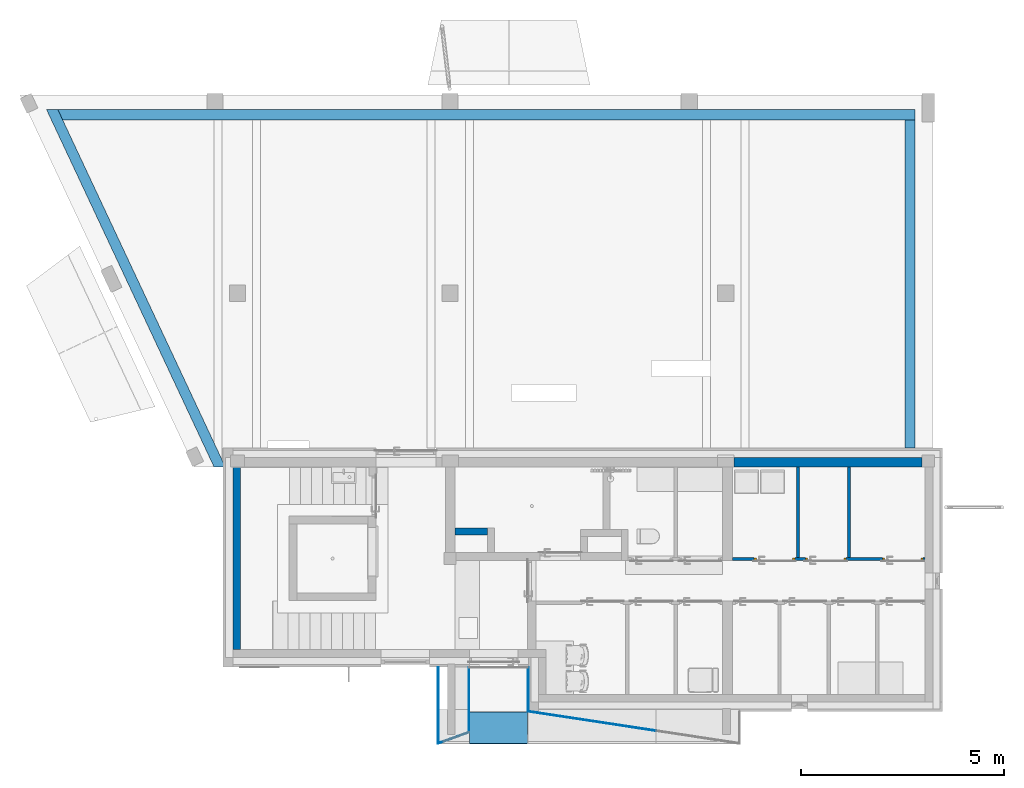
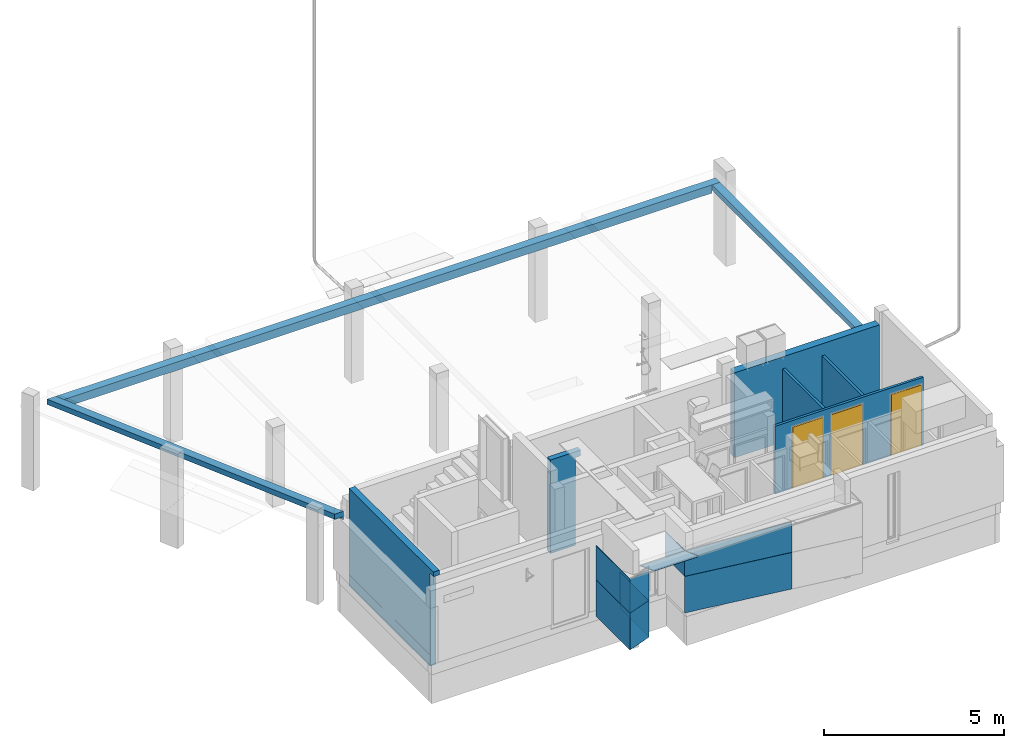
# One storey, part 4 of 55: 16 building element parts, 9 walls, 3 doors, 4 openings, 6 elements without a shape of their own.
"""IFC2X3 building model written with IfcOpenShell, lengths in millimetres."""

import ifcopenshell
import ifcopenshell.guid

model = None  # the IFC model being written
_history = None  # IfcOwnerHistory: only IFC2X3 demands one
_inside = {}  # id of a spatial element -> (the spatial element, [elements in it])
_under = {}  # id of a project, library or spatial element -> (it, [spatial elements below it])
_declared = {}  # id of a project -> (the project, [libraries it declares])
_typed = {}  # id of a type object -> (the type object, [elements of that type])
_made_of = {}  # id of a material, layer set ... -> (it, [elements and type objects made of it])


def new_model(schema):
    """Start an empty IFC model of exactly this schema.

    Asked for "IFC4X3", IfcOpenShell would pick the latest addendum, in which some entities
    have other attributes; the version numbers below select the first issue.
    IFC2X3 requires an IfcOwnerHistory on every rooted entity: one is made here for all.
    """
    global model, _history
    if schema == "IFC4X3":
        model = ifcopenshell.file(schema_version=(4, 3, 0, 0))
    else:
        model = ifcopenshell.file(schema=schema)
    _inside.clear()
    _under.clear()
    _declared.clear()
    _typed.clear()
    _made_of.clear()
    _history = None
    if model.schema == "IFC2X3":
        org = make("IfcOrganization", Name="unknown")
        user = make(
            "IfcPersonAndOrganization",
            ThePerson=make("IfcPerson", FamilyName="unknown"),
            TheOrganization=org,
        )
        app = make(
            "IfcApplication",
            ApplicationDeveloper=org,
            Version="unknown",
            ApplicationFullName="unknown",
            ApplicationIdentifier="unknown",
        )
        _history = make(
            "IfcOwnerHistory",
            OwningUser=user,
            OwningApplication=app,
            ChangeAction="ADDED",
            CreationDate=0,
        )
    return model


def make(cls, **values):
    """One entity of the class cls with the attributes given. An attribute that is None is left unset."""
    return model.create_entity(
        cls, **{name: value for name, value in values.items() if value is not None}
    )


def entity(cls, *values):
    """Any entity or typed value of the class cls, its attributes in the order of the schema. None: left unset."""
    e = model.create_entity(cls)
    for i, value in enumerate(values):
        if value is not None:
            e[i] = value
    return e


def rooted(cls, **values):
    """An entity with a GlobalId (a new one), such as an element, a storey or a relation."""
    return make(cls, GlobalId=ifcopenshell.guid.new(), OwnerHistory=_history, **values)


def si_unit(unit_type, name, prefix=None):
    """IfcSIUnit, for example si_unit("LENGTHUNIT", "METRE", prefix="MILLI")."""
    return make("IfcSIUnit", UnitType=unit_type, Prefix=prefix, Name=name)


def converted_unit(unit_type, name, factor, base, dimensions=None, offset=None):
    """IfcConversionBasedUnit, such as the inch: factor (a typed value) times the base unit."""
    return make(
        "IfcConversionBasedUnit"
        if offset is None
        else "IfcConversionBasedUnitWithOffset",
        ConversionOffset=offset,
        Dimensions=None
        if dimensions is None
        else entity("IfcDimensionalExponents", *dimensions),
        UnitType=unit_type,
        Name=name,
        ConversionFactor=make(
            "IfcMeasureWithUnit", ValueComponent=factor, UnitComponent=base
        ),
    )


def assignment(units):
    """IfcUnitAssignment: the units of a project."""
    return None if units is None else make("IfcUnitAssignment", Units=units)


def point(xyz):
    """IfcCartesianPoint."""
    return None if xyz is None else make("IfcCartesianPoint", Coordinates=xyz)


def direction(xyz):
    """IfcDirection."""
    return None if xyz is None else make("IfcDirection", DirectionRatios=xyz)


def frame(location, z_axis=None, x_axis=None):
    """IfcAxis2Placement3D, a coordinate frame: its origin and axes. An axis left out is left unset."""
    return make(
        "IfcAxis2Placement3D",
        Location=point(location),
        Axis=direction(z_axis),
        RefDirection=direction(x_axis),
    )


def frame_2d(location, x_axis=None):
    """IfcAxis2Placement2D, a coordinate frame in the plane: its origin and x axis."""
    return make(
        "IfcAxis2Placement2D", Location=point(location), RefDirection=direction(x_axis)
    )


def origin():
    """The frame at (0, 0, 0) with its axes left unset."""
    return frame((0.0, 0.0, 0.0))


def place(relative_to, where):
    """IfcLocalPlacement: puts the frame where relative to a parent placement (None: the world)."""
    return make(
        "IfcLocalPlacement", PlacementRelTo=relative_to, RelativePlacement=where
    )


def context(
    kind, dimensions, precision=None, world=None, true_north=None, identifier=None
):
    """IfcGeometricRepresentationContext, for example the 3D "Model" context."""
    return make(
        "IfcGeometricRepresentationContext",
        ContextIdentifier=identifier,
        ContextType=kind,
        CoordinateSpaceDimension=dimensions,
        Precision=precision,
        WorldCoordinateSystem=world,
        TrueNorth=true_north,
    )


def subcontext(parent, identifier, kind, view, scale=None):
    """IfcGeometricRepresentationSubContext, for example "Body" below "Model"."""
    return make(
        "IfcGeometricRepresentationSubContext",
        ContextIdentifier=identifier,
        ContextType=kind,
        ParentContext=parent,
        TargetScale=scale,
        TargetView=view,
    )


def project(units=None, contexts=None):
    """IfcProject with its units and contexts."""
    return rooted(
        "IfcProject",
        Name="project",
        RepresentationContexts=contexts,
        UnitsInContext=assignment(units),
    )


def spatial(cls, under=None, at=None, **own):
    """A site, building, storey or space (cls), placed at a placement, below another one or the project."""
    s = rooted(cls, ObjectPlacement=at, **own)
    if under is not None:
        _under.setdefault(under.id(), (under, []))[1].append(s)
    return s


def polyline(points):
    """IfcPolyline through the points."""
    return make("IfcPolyline", Points=[point(p) for p in points])


def profile(cls, at=None, kind="AREA", **sizes):
    """A parametric profile (cls). Its sizes go by their IFC names, for example OverallWidth=200.0."""
    return make(cls, ProfileType=kind, Position=at, **sizes)


def rectangle(**sizes):
    """IfcRectangleProfileDef."""
    return profile("IfcRectangleProfileDef", **sizes)


def outline(outer, holes=None, kind="AREA"):
    """IfcArbitraryClosedProfileDef: a profile drawn as a closed curve; with holes, ...WithVoids."""
    if holes is None:
        return make("IfcArbitraryClosedProfileDef", ProfileType=kind, OuterCurve=outer)
    return make(
        "IfcArbitraryProfileDefWithVoids",
        ProfileType=kind,
        OuterCurve=outer,
        InnerCurves=holes,
    )


def extrude(swept, where, along, depth):
    """IfcExtrudedAreaSolid: the profile swept, set in the frame where, extruded along a direction by depth."""
    return make(
        "IfcExtrudedAreaSolid",
        SweptArea=swept,
        Position=where,
        ExtrudedDirection=direction(along),
        Depth=depth,
    )


def clip(a, b, op="DIFFERENCE"):
    """IfcBooleanClippingResult: the solid a cut by the half space b."""
    return make(
        "IfcBooleanClippingResult", Operator=op, FirstOperand=a, SecondOperand=b
    )


def halfspace(plane, agree):
    """IfcHalfSpaceSolid: all space on one side of the plane z = 0 of the frame plane."""
    return make(
        "IfcHalfSpaceSolid",
        BaseSurface=make("IfcPlane", Position=plane),
        AgreementFlag=agree,
    )


def faces_of(points, faces, orient=None, outer=None):
    """IfcFace entities. A face is a list of loops; a loop is a list of indices into points, from 0.

    orient and outer hold one flag for each loop. By default every Orientation is true, the
    first loop of a face is its IfcFaceOuterBound and the others are IfcFaceBound.
    """
    made = []
    for i, loops in enumerate(faces):
        bounds = []
        for j, loop in enumerate(loops):
            is_outer = j == 0 if outer is None else outer[i][j]
            bounds.append(
                make(
                    "IfcFaceOuterBound" if is_outer else "IfcFaceBound",
                    Bound=make("IfcPolyLoop", Polygon=[points[k] for k in loop]),
                    Orientation=True if orient is None else orient[i][j],
                )
            )
        made.append(make("IfcFace", Bounds=bounds))
    return made


def faceted_brep(points, faces, orient=None, outer=None, voids=None):
    """IfcFacetedBrep: a solid bounded by flat faces; with voids (closed shells), ...WithVoids."""
    shared = [point(p) for p in points]
    hull = make("IfcClosedShell", CfsFaces=faces_of(shared, faces, orient, outer))
    if voids is None:
        return make("IfcFacetedBrep", Outer=hull)
    return make(
        "IfcFacetedBrepWithVoids",
        Outer=hull,
        Voids=[
            make(cls, CfsFaces=faces_of(shared, fs, o, b)) for cls, fs, o, b in voids
        ],
    )


def shape(context_of_items, identifier, shape_type, items):
    """IfcShapeRepresentation: the items that make up one representation, for example the "Body"."""
    return make(
        "IfcShapeRepresentation",
        ContextOfItems=context_of_items,
        RepresentationIdentifier=identifier,
        RepresentationType=shape_type,
        Items=items,
    )


def source(mapping_origin, context_of_items, identifier, shape_type, items):
    """IfcRepresentationMap: a shape defined once, which mapped items show again and again."""
    return make(
        "IfcRepresentationMap",
        MappingOrigin=mapping_origin,
        MappedRepresentation=shape(context_of_items, identifier, shape_type, items),
    )


def transform(
    local_origin,
    x_axis=None,
    y_axis=None,
    z_axis=None,
    scale=None,
    scale2=None,
    scale3=None,
    uniform=True,
):
    """IfcCartesianTransformationOperator3D, or its non-uniform kind. x_axis, y_axis, z_axis: its Axis1, 2, 3."""
    if uniform:
        return make(
            "IfcCartesianTransformationOperator3D",
            Axis1=direction(x_axis),
            Axis2=direction(y_axis),
            LocalOrigin=point(local_origin),
            Scale=scale,
            Axis3=direction(z_axis),
        )
    return make(
        "IfcCartesianTransformationOperator3DnonUniform",
        Axis1=direction(x_axis),
        Axis2=direction(y_axis),
        LocalOrigin=point(local_origin),
        Scale=scale,
        Axis3=direction(z_axis),
        Scale2=scale2,
        Scale3=scale3,
    )


def mapped(mapping_source, mapping_target):
    """IfcMappedItem: shows the shape of a source again, moved by a transform."""
    return make(
        "IfcMappedItem", MappingSource=mapping_source, MappingTarget=mapping_target
    )


def material(Name=None, Category=None):
    """IfcMaterial."""
    return make("IfcMaterial", Name=Name, Category=Category)


def layer(
    of_material, thickness, ventilated=None, Name=None, Category=None, Priority=None
):
    """IfcMaterialLayer: one layer of a wall or slab, of a material (None: an air gap)."""
    return make(
        "IfcMaterialLayer",
        Material=of_material,
        LayerThickness=thickness,
        IsVentilated=ventilated,
        Name=Name,
        Category=Category,
        Priority=Priority,
    )


def layer_set(layers, Name=None):
    """IfcMaterialLayerSet."""
    return make("IfcMaterialLayerSet", MaterialLayers=layers, LayerSetName=Name)


def layer_usage(for_layer_set, set_direction, sense, offset, extent=None):
    """IfcMaterialLayerSetUsage: how a layer set lies in its element."""
    return make(
        "IfcMaterialLayerSetUsage",
        ForLayerSet=for_layer_set,
        LayerSetDirection=set_direction,
        DirectionSense=sense,
        OffsetFromReferenceLine=offset,
        ReferenceExtent=extent,
    )


def made_of(thing, what):
    """Note that an element or type object is made of a material, layer set ...; save() writes the relation."""
    if what is not None:
        _made_of.setdefault(what.id(), (what, []))[1].append(thing)
    return thing


def type_object(cls, material=None, **own):
    """A type object (cls), such as IfcWallType, which elements share."""
    return made_of(rooted(cls, **own), material)


def type_shapes(of_type, sources):
    """Give a type object the sources (RepresentationMaps) that its elements show as mapped items."""
    of_type.RepresentationMaps = sources


def element(
    cls,
    number,
    at=None,
    inside=None,
    cuts=None,
    type_object=None,
    material=None,
    context=None,
    identifier="Body",
    shape_type=None,
    held_by="IfcProductDefinitionShape",
    body=None,
    shapes=None,
    **own,
):
    """One element of the class cls, such as IfcWall. Its Tag is "e" and its number.

    at: its placement. inside: the storey or other place that contains it. cuts: it is an
    opening in that element (IfcRelVoidsElement). A single representation is given by context,
    identifier, shape_type and body (its items); several are given by shapes. held_by: the class
    of the entity that holds the representations. save() writes the other relations.
    """
    e = rooted(cls, Tag="e%d" % number, ObjectPlacement=at, **own)
    if body is not None:
        shapes = [shape(context, identifier, shape_type, body)]
    if shapes is not None:
        e.Representation = make(held_by, Representations=shapes)
    if inside is not None:
        _inside.setdefault(inside.id(), (inside, []))[1].append(e)
    if cuts is not None:
        rooted(
            "IfcRelVoidsElement", RelatingBuildingElement=cuts, RelatedOpeningElement=e
        )
    if type_object is not None:
        _typed.setdefault(type_object.id(), (type_object, []))[1].append(e)
    return made_of(e, material)


def fill(opening, filler):
    """IfcRelFillsElement: the door or window that sits in an opening."""
    return rooted(
        "IfcRelFillsElement",
        RelatingOpeningElement=opening,
        RelatedBuildingElement=filler,
    )


def aggregate(whole, parts):
    """IfcRelAggregates: a whole, such as a stair, and the parts it consists of."""
    return rooted("IfcRelAggregates", RelatingObject=whole, RelatedObjects=parts)


def save(model, path):
    """Write the relations noted so far, then the file.

    IfcRelAggregates (storeys below a building ...), IfcRelContainedInSpatialStructure (elements
    in a storey), IfcRelDefinesByType, IfcRelAssociatesMaterial and IfcRelDeclares: one each for
    every whole, place, type object, material and project.
    """
    for whole, parts in _under.values():
        aggregate(whole, parts)
    for where, things in _inside.values():
        rooted(
            "IfcRelContainedInSpatialStructure",
            RelatedElements=things,
            RelatingStructure=where,
        )
    for kind, things in _typed.values():
        rooted("IfcRelDefinesByType", RelatedObjects=things, RelatingType=kind)
    for what, things in _made_of.values():
        rooted("IfcRelAssociatesMaterial", RelatedObjects=things, RelatingMaterial=what)
    for by, libraries in _declared.values():
        rooted("IfcRelDeclares", RelatingContext=by, RelatedDefinitions=libraries)
    model.write(path)


model = new_model("IFC2X3")

# Units and contexts
model_context = context("Model", 3, precision=0.01, world=origin(), true_north=direction((6.123233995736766e-17, 1.0)))
plan_context = context("Plan", 3, precision=0.01, world=origin(), true_north=direction((6.123233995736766e-17, 1.0)))
body_context = subcontext(model_context, "Body", "Model", "MODEL_VIEW")
ifc_project = project(units=[si_unit("LENGTHUNIT", "METRE", prefix="MILLI"), converted_unit("PLANEANGLEUNIT", "DEGREE", entity("IfcPlaneAngleMeasure", 0.017453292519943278), si_unit("PLANEANGLEUNIT", "RADIAN"), dimensions=[0, 0, 0, 0, 0, 0, 0]), si_unit("AREAUNIT", "SQUARE_METRE")], contexts=[model_context, plan_context])

# Site, building, storey
site_placement = place(None, origin())
site = spatial("IfcSite", under=ifc_project, at=site_placement, Name="Default", CompositionType="ELEMENT")
building_placement = place(site_placement, origin())
building = spatial("IfcBuilding", under=site, at=building_placement, CompositionType="ELEMENT")
storey_placement = place(building_placement, origin())
storey = spatial("IfcBuildingStorey", under=building, at=storey_placement, Name="1K", CompositionType="ELEMENT", Elevation=0.0)

# Wall, opening
ifc_material_1 = material(Name="_K. Müüritis. Väikeplokk. Betoon-õõnesplokk")
ifc_layer_1 = layer(ifc_material_1, 240.0)
ifc_layer_set_1 = layer_set([ifc_layer_1], Name="Basic Wall:Columbia 240mm")
ifc_layer_usage_1 = layer_usage(ifc_layer_set_1, "AXIS2", "NEGATIVE", 120.0)
wall_type_1 = type_object("IfcWallType", Name="Basic Wall:Columbia 240mm", PredefinedType="STANDARD", material=ifc_layer_set_1)
wall_1_placement = place(storey_placement, frame((12175.003532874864, 6525.000000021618, -180.0)))
wall_1 = element("IfcWallStandardCase", 1, at=wall_1_placement, inside=storey, type_object=wall_type_1, material=ifc_layer_usage_1, Name="Basic Wall:Columbia 240mm", ObjectType="Basic Wall:Columbia 240mm", context=body_context, shape_type="SweptSolid", body=[
    extrude(rectangle(XDim=4649.996467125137, YDim=239.99999999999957, at=frame_2d((2324.9982335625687, 0.0), x_axis=(-1.0, 0.0))), origin(), (0.0, 0.0, 1.0), 2885.0000000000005),
])
opening_1_placement = place(wall_1_placement, frame((-12175.003532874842, -6525.000000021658, 180.0)))
element("IfcOpeningElement", 2, at=opening_1_placement, cuts=wall_1, Name="Basic Wall:Columbia 240mm", ObjectType="Opening", context=body_context, shape_type="Brep", body=[
    faceted_brep([(4820.0, 5719.000000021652, 2100.0), (3350.0, 5719.000000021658, 2100.0), (3350.0, 5719.000000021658, 0.0), (4820.0, 5719.000000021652, 0.0), (4820.0, 6719.0000000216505, 0.0), (4820.0, 6719.0000000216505, -20.0), (4820.0, 6811.0000000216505, -20.0), (4820.0, 6811.0000000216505, 0.0), (4820.0, 7811.0000000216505, 0.0), (4820.0, 7811.0000000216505, 2100.0), (3350.0, 6719.000000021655, 0.0), (3350.0, 7811.000000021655, 2100.0), (3350.0, 7811.000000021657, 0.0), (3350.0, 6811.000000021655, 0.0), (3350.0, 6811.000000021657, -20.0), (3350.0, 6719.000000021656, -20.0)], [[[0, 1, 2, 3]], [[3, 4, 5, 6, 7, 8, 9, 0]], [[2, 10, 4, 3]], [[1, 11, 12, 13, 14, 15, 10, 2]], [[9, 11, 1, 0]], [[11, 9, 8, 12]], [[8, 7, 13, 12]], [[14, 13, 7, 6]], [[5, 4, 10, 15]], [[6, 5, 15, 14]]]),
])

# Walls
ifc_material_2 = material(Name="_K. Väisviimistlus. Krohv. Valge")
ifc_layer_2 = layer(ifc_material_2, 5.0)
ifc_layer_3 = layer(ifc_material_1, 190.00000000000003)
ifc_layer_4 = layer(ifc_material_2, 5.0)
ifc_layer_set_2 = layer_set([ifc_layer_2, ifc_layer_3, ifc_layer_4], Name="Basic Wall:SS-01. 190")
wall_type_2 = type_object("IfcWallType", Name="Basic Wall:SS-01. 190", PredefinedType="STANDARD", material=ifc_layer_set_2)
wall_2_placement = place(storey_placement, frame((-100.0, 1710.0, -180.0), z_axis=(0.0, 0.0, 1.0), x_axis=(0.0, 1.0, 0.0)))
element("IfcWall", 3, at=wall_2_placement, inside=storey, type_object=wall_type_2, Name="Basic Wall:SS-01. 190", ObjectType="Basic Wall:SS-01. 190", context=body_context, shape_type="Brep", body=[
    faceted_brep([(190.0, -100.0, 0.0), (4689.99995949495, -100.0, 0.0), (4689.99995949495, -100.0, 3305.0), (3790.0, -100.0, 3305.0), (3390.0, -100.0, 3305.0), (2190.0, -100.0, 3305.0), (1790.0, -100.0, 3305.0), (590.0, -100.0, 3305.0), (190.0, -100.0, 3305.0), (0.0, -100.0, 3305.0), (0.0, -100.0, 3150.0002019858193), (190.0, -100.0, 3150.0002019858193), (4689.999959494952, 100.0, 0.0), (190.0, 100.0, 0.0), (190.0, 100.0, 380.0), (4689.999959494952, 100.0, 380.0), (4689.99995949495, 100.0, 3305.0), (0.0, 100.0, 3305.0), (0.0, 90.0, 3305.0), (190.0, 90.0, 2295.0), (4689.999959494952, 90.0, 2295.0), (4689.999959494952, 90.0, 380.0), (190.0, 90.0, 380.0), (190.0, 100.0, 2295.0), (4689.999959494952, 100.0, 2295.0), (0.0, 100.0, 3150.0002019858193), (190.0, 100.0, 3150.0002019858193)], [[[0, 1, 2, 3, 4, 5, 6, 7, 8, 9, 10, 11]], [[12, 13, 14, 15]], [[1, 0, 13, 12]], [[9, 8, 7, 6, 5, 4, 3, 2, 16, 17, 18]], [[19, 20, 21, 22]], [[22, 21, 15, 14]], [[20, 19, 23, 24]], [[25, 26, 11, 10]], [[13, 0, 11, 26, 23, 19, 22, 14]], [[9, 18, 17, 25, 10]], [[2, 1, 12, 15, 21, 20, 24, 16]], [[17, 16, 24, 23, 26, 25]]]),
])
ifc_layer_5 = layer(ifc_material_2, 10.0)
ifc_material_3 = material(Name="_K. Müüritis. Väikeplokk. Kergkruusplokk")
ifc_layer_6 = layer(ifc_material_3, 150.0)
ifc_layer_7 = layer(ifc_material_2, 10.0)
ifc_layer_set_3 = layer_set([ifc_layer_5, ifc_layer_6, ifc_layer_7], Name="Basic Wall:SS-03. Šahti sein")
wall_type_3 = type_object("IfcWallType", Name="Basic Wall:SS-03. Šahti sein", PredefinedType="STANDARD", material=ifc_layer_set_3)
wall_3_placement = place(storey_placement, frame((5294.9950608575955, 4815.0, 0.0)))
element("IfcWall", 4, at=wall_3_placement, inside=storey, type_object=wall_type_3, Name="Basic Wall:SS-03. Šahti sein", ObjectType="Basic Wall:SS-03. Šahti sein", context=body_context, shape_type="Brep", body=[
    faceted_brep([(0.0, -85.0, 0.0), (805.0021362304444, -85.0, 0.0), (805.0021362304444, -85.0, 2969.9998016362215), (975.0021362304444, -85.0, 2969.9998016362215), (975.0021362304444, -85.0, 3104.9998016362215), (975.0021362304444, -85.0, 3170.0), (805.0021362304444, -85.0, 3170.0), (5.0, -85.0, 3170.0), (5.0, -85.0, 2705.0), (0.0, -85.0, 2705.0), (0.0, 85.0, 0.0), (0.0, 85.0, 2705.0), (5.0, 85.0, 2705.0), (5.0, 85.0, 3170.0), (805.0021362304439, 85.0, 3170.0), (975.0021362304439, 85.0, 3170.0), (975.0021362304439, 85.0, 2969.9998016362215), (805.0021362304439, 85.0, 2969.9998016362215), (805.0021362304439, 85.0, 2704.9998016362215), (805.0021362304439, 85.0, 0.0)], [[[0, 1, 2, 3, 4, 5, 6, 7, 8, 9]], [[10, 11, 12, 13, 14, 15, 16, 17, 18, 19]], [[1, 0, 10, 19]], [[7, 6, 5, 15, 14, 13]], [[16, 3, 2, 17]], [[2, 1, 19, 18, 17]], [[8, 12, 11, 9]], [[0, 9, 11, 10]], [[7, 13, 12, 8]], [[3, 16, 15, 5, 4]]]),
])

# Wall, openings, doors
ifc_material_4 = material(Name="_K. Ehitusplaat. Vineer")
ifc_layer_8 = layer(ifc_material_4, 12.0)
ifc_material_5 = material(Name="_K. Puit. Peitsitud ja lakitud")
ifc_layer_9 = layer(ifc_material_5, 70.0)
ifc_layer_set_4 = layer_set([ifc_layer_8, ifc_layer_9], Name="Basic Wall:SS-07. Panipaik")
ifc_layer_usage_2 = layer_usage(ifc_layer_set_4, "AXIS2", "NEGATIVE", 41.0)
wall_type_4 = type_object("IfcWallType", Name="Basic Wall:SS-07. Panipaik", PredefinedType="STANDARD", material=ifc_layer_set_4)
wall_4_placement = place(storey_placement, frame((12144.995060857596, 4140.999959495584, 0.0)))
wall_4 = element("IfcWallStandardCase", 5, at=wall_4_placement, inside=storey, type_object=wall_type_4, material=ifc_layer_usage_2, Name="Basic Wall:SS-07. Panipaik", ObjectType="Basic Wall:SS-07. Panipaik", context=body_context, shape_type="SweptSolid", body=[
    extrude(rectangle(XDim=4755.004939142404, YDim=81.99999999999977, at=frame_2d((2377.502469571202, -1.0302869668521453e-13), x_axis=(-1.0, 0.0))), origin(), (0.0, 0.0, 1.0), 2300.0),
])
opening_2_placement = place(wall_4_placement, frame((-12144.995060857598, -4140.999959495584, 0.0)))
opening_2 = element("IfcOpeningElement", 6, at=opening_2_placement, cuts=wall_4, Name="Basic Wall:SS-07. Panipaik", ObjectType="Opening", context=body_context, shape_type="Brep", body=[
    faceted_brep([(13940.0, 5159.999959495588, 2100.0), (14940.0, 5159.999959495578, 2100.0), (14940.0, 5159.999959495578, 0.0), (13940.0, 5159.999959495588, 0.0), (13940.0, 3099.999959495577, 0.0), (13940.0, 3099.999959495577, 2100.0), (14940.0, 3099.9999594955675, 0.0), (14940.0, 3099.9999594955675, 2100.0)], [[[0, 1, 2, 3]], [[3, 4, 5, 0]], [[2, 6, 4, 3]], [[1, 7, 6, 2]], [[5, 7, 1, 0]], [[7, 5, 4, 6]]]),
])
opening_3_placement = place(wall_4_placement, frame((-12144.995060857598, -4140.999959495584, 0.0)))
opening_3 = element("IfcOpeningElement", 7, at=opening_3_placement, cuts=wall_4, Name="Basic Wall:SS-07. Panipaik", ObjectType="Opening", context=body_context, shape_type="Brep", body=[
    faceted_brep([(15840.0, 5159.999959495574, 2100.0), (16840.0, 5159.999959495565, 2100.0), (16840.0, 5159.999959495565, 0.0), (15840.0, 5159.999959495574, 0.0), (15840.0, 3099.9999594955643, 0.0), (15840.0, 3099.9999594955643, 2100.0), (16840.0, 3099.9999594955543, 0.0), (16840.0, 3099.9999594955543, 2100.0)], [[[0, 1, 2, 3]], [[3, 4, 5, 0]], [[2, 6, 4, 3]], [[1, 7, 6, 2]], [[5, 7, 1, 0]], [[7, 5, 4, 6]]]),
])
opening_4_placement = place(wall_4_placement, frame((-12144.995060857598, -4140.999959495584, 0.0)))
opening_4 = element("IfcOpeningElement", 8, at=opening_4_placement, cuts=wall_4, Name="Basic Wall:SS-07. Panipaik", ObjectType="Opening", context=body_context, shape_type="Brep", body=[
    faceted_brep([(12680.0, 5159.999959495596, 2100.0), (13680.0, 5159.999959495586, 2100.0), (13680.0, 5159.999959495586, 0.0), (12680.0, 5159.999959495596, 0.0), (12680.0, 3099.9999594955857, 0.0), (12680.0, 3099.9999594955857, 2100.0), (13680.0, 3099.999959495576, 0.0), (13680.0, 3099.999959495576, 2100.0)], [[[0, 1, 2, 3]], [[3, 4, 5, 0]], [[2, 6, 4, 3]], [[1, 7, 6, 2]], [[5, 7, 1, 0]], [[7, 5, 4, 6]]]),
])
ifc_material_6 = material(Name="_K. Metall. Plekk. Tsingitud")
door_style = type_object("IfcDoorStyle", Name="HR_Generic_Hinged_Single:Panipaik. Parem", ConstructionType="NOTDEFINED", OperationType="NOTDEFINED", ParameterTakesPrecedence=False, Sizeable=False, material=ifc_material_6)
shared_shape = source(origin(), body_context, "Body", "Brep", [
    faceted_brep([(37.0, 1030.0, 2060.0), (37.0, 1030.0, 10.0), (963.0, 1030.0, 10.0), (963.0, 1030.0, 2060.0), (27.0, 1070.0, 10.0), (27.0, 1070.0, 2070.0), (973.0, 1070.0, 2070.0), (973.0, 1070.0, 10.0), (37.0, 1060.0, 2060.0), (37.0, 1060.0, 10.0), (27.0, 1060.0, 10.0), (973.0, 1060.0, 10.0), (963.0, 1060.0, 10.0), (963.0, 1060.0, 2060.0), (27.0, 1060.0, 2070.0), (973.0, 1060.0, 2070.0)], [[[0, 1, 2, 3]], [[4, 5, 6, 7]], [[1, 0, 8, 9]], [[2, 1, 9, 10, 4, 7, 11, 12]], [[3, 2, 12, 13]], [[0, 3, 13, 8]], [[14, 10, 9, 8, 13, 12, 11, 15]], [[6, 5, 14, 15]], [[7, 6, 15, 11]], [[5, 4, 10, 14]]]),
    faceted_brep([(1000.0, 1000.0, 0.0), (950.0, 1000.0, 0.0), (950.0, 1030.0, 0.0), (965.0, 1030.0, 0.0), (965.0, 1060.0, 0.0), (1000.0, 1060.0, 0.0), (1000.0, 1000.0, 2100.0), (0.0, 1000.0, 2100.0), (0.0, 1000.0, 0.0), (50.0, 1000.0, 0.0), (50.0, 1000.0, 2050.0), (950.0, 1000.0, 2050.0), (950.0, 1030.0, 2050.0), (35.0, 1030.0, 2065.0), (965.0, 1030.0, 2065.0), (50.0, 1030.0, 2050.0), (50.0, 1030.0, 0.0), (35.0, 1030.0, 0.0), (965.0, 1060.0, 2065.0), (0.0, 1060.0, 0.0), (0.0, 1060.0, 2100.0), (1000.0, 1060.0, 2100.0), (35.0, 1060.0, 2065.0), (35.0, 1060.0, 0.0)], [[[0, 1, 2, 3, 4, 5]], [[1, 0, 6, 7, 8, 9, 10, 11]], [[1, 11, 12, 2]], [[13, 14, 3, 2, 12, 15, 16, 17]], [[3, 14, 18, 4]], [[19, 20, 21, 5, 4, 18, 22, 23]], [[0, 5, 21, 6]], [[8, 19, 23, 17, 16, 9]], [[19, 8, 7, 20]], [[13, 17, 23, 22]], [[10, 9, 16, 15]], [[7, 6, 21, 20]], [[11, 10, 15, 12]], [[14, 13, 22, 18]]]),
])
type_shapes(door_style, [shared_shape])
door_1_placement = place(opening_2_placement, frame((14940.0, 5159.999959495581, 0.0), z_axis=(0.0, 0.0, 1.0), x_axis=(-1.0, 0.0, 0.0)))
door_1 = element("IfcDoor", 9, at=door_1_placement, inside=storey, type_object=door_style, material=ifc_material_6, Name="HR_Generic_Hinged_Single:Panipaik. Parem", ObjectType="HR_Generic_Hinged_Single:Panipaik. Parem", OverallHeight=2130.000000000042, OverallWidth=1060.0000000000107, context=body_context, shape_type="MappedRepresentation", body=[
    mapped(shared_shape, transform((0.0, 0.0, 0.0), scale=1.0)),
])
fill(opening_2, door_1)
door_2_placement = place(opening_3_placement, frame((16840.0, 5159.999959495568, 0.0), z_axis=(0.0, 0.0, 1.0), x_axis=(-1.0, 0.0, 0.0)))
door_2 = element("IfcDoor", 10, at=door_2_placement, inside=storey, type_object=door_style, material=ifc_material_6, Name="HR_Generic_Hinged_Single:Panipaik. Parem", ObjectType="HR_Generic_Hinged_Single:Panipaik. Parem", OverallHeight=2130.000000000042, OverallWidth=1060.0000000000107, context=body_context, shape_type="MappedRepresentation", body=[
    mapped(shared_shape, transform((0.0, 0.0, 0.0), scale=1.0)),
])
fill(opening_3, door_2)
door_3_placement = place(opening_4_placement, frame((13680.0, 5159.99995949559, 0.0), z_axis=(0.0, 0.0, 1.0), x_axis=(-1.0, 0.0, 0.0)))
door_3 = element("IfcDoor", 11, at=door_3_placement, inside=storey, type_object=door_style, material=ifc_material_6, Name="HR_Generic_Hinged_Single:Panipaik. Parem", ObjectType="HR_Generic_Hinged_Single:Panipaik. Parem", OverallHeight=2130.000000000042, OverallWidth=1060.0000000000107, context=body_context, shape_type="MappedRepresentation", body=[
    mapped(shared_shape, transform((0.0, 0.0, 0.0), scale=1.0)),
])
fill(opening_4, door_3)

# Walls
ifc_layer_usage_3 = layer_usage(ifc_layer_set_4, "AXIS2", "POSITIVE", -41.0)
wall_5_placement = place(storey_placement, frame((15019.0, 6405.000000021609, -20.0), z_axis=(0.0, 0.0, 1.0), x_axis=(0.0, -1.0, 0.0)))
element("IfcWallStandardCase", 12, at=wall_5_placement, inside=storey, type_object=wall_type_4, material=ifc_layer_usage_3, Name="Basic Wall:SS-07. Panipaik", ObjectType="Basic Wall:SS-07. Panipaik", context=body_context, shape_type="SweptSolid", body=[
    extrude(rectangle(XDim=2223.000040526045, YDim=81.99999999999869, at=frame_2d((1111.5000202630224, -1.4566126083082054e-13), x_axis=(-1.0, 0.0))), origin(), (0.0, 0.0, 1.0), 2320.0),
])
ifc_layer_usage_4 = layer_usage(ifc_layer_set_4, "AXIS2", "POSITIVE", -41.0)
wall_6_placement = place(storey_placement, frame((13759.0, 6405.000000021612, -20.0), z_axis=(0.0, 0.0, 1.0), x_axis=(0.0, -1.0, 0.0)))
element("IfcWallStandardCase", 13, at=wall_6_placement, inside=storey, type_object=wall_type_4, material=ifc_layer_usage_4, Name="Basic Wall:SS-07. Panipaik", ObjectType="Basic Wall:SS-07. Panipaik", context=body_context, shape_type="SweptSolid", body=[
    extrude(rectangle(XDim=2223.0000405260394, YDim=81.99999999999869, at=frame_2d((1111.5000202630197, -1.4566126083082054e-13), x_axis=(-1.0, 0.0))), origin(), (0.0, 0.0, 1.0), 2320.0),
])
ifc_material_7 = material(Name="_K. Välisviimistlus. Alumiinium-komposiitplaat. Must")
ifc_layer_10 = layer(ifc_material_7, 4.0)
ifc_material_8 = material(Name="_K. Soojustus. Mineraalvill")
ifc_layer_11 = layer(ifc_material_8, 250.00000000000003)
ifc_layer_set_5 = layer_set([ifc_layer_10, ifc_layer_11], Name="Basic Wall:VS-Tala")
wall_type_5 = type_object("IfcWallType", Name="Basic Wall:VS-Tala", PredefinedType="STANDARD", material=ifc_layer_set_5)
wall_7_placement = place(storey_placement, frame((-4505.774180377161, 15103.0, 2120.0)))
element("IfcWall", 14, at=wall_7_placement, inside=storey, type_object=wall_type_5, Name="Basic Wall:VS-Tala", ObjectType="Basic Wall:VS-Tala", context=body_context, shape_type="Brep", body=[
    faceted_brep([(21155.774176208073, -127.0, 280.0), (20901.774176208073, -127.0, 280.0), (119.06325695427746, -127.0, 280.0), (119.06325695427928, -127.0, 0.0), (20905.774176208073, -127.0, 0.0), (20905.774176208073, -127.0, 100.00020217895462), (21155.774176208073, -127.0, 100.00020217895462), (0.0, 127.0, 280.0), (21155.77417620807, 127.0, 280.0), (21155.774176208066, 127.0, 100.00020217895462), (0.0, 127.0, 100.00020217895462), (117.18824503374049, -123.0, 0.0), (20905.774176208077, -123.0, 0.0), (117.18824503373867, -123.0, 100.00020217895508), (20905.774176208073, -123.0, 100.00020217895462)], [[[0, 1, 2, 3, 4, 5, 6]], [[7, 8, 9, 10]], [[4, 3, 11, 12]], [[2, 1, 0, 8, 7]], [[8, 0, 6, 9]], [[3, 2, 7, 10, 13, 11]], [[5, 14, 13, 10, 9, 6]], [[14, 5, 4, 12]], [[13, 14, 12, 11]]]),
])
ifc_layer_usage_5 = layer_usage(ifc_layer_set_5, "AXIS2", "POSITIVE", -127.00000000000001)
wall_8_placement = place(storey_placement, frame((16522.99999583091, 14976.0, 2220.0002021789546), z_axis=(0.0, 0.0, 1.0), x_axis=(0.0, -1.0, 0.0)))
element("IfcWallStandardCase", 15, at=wall_8_placement, inside=storey, type_object=wall_type_5, material=ifc_layer_usage_5, Name="Basic Wall:VS-Tala", ObjectType="Basic Wall:VS-Tala", context=body_context, shape_type="SweptSolid", body=[
    extrude(rectangle(XDim=8090.999999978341, YDim=253.99999999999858, at=frame_2d((4045.4999999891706, -2.0605739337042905e-13), x_axis=(-1.0, 0.0))), origin(), (0.0, 0.0, 1.0), 179.99979782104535),
])
wall_9_placement = place(storey_placement, frame((-484.02226486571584, 6351.096576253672, 2116.000202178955), z_axis=(0.0, 0.0, 1.0), x_axis=(-0.42443608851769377, 0.9054578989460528, 0.0)))
element("IfcWall", 16, at=wall_9_placement, inside=storey, type_object=wall_type_5, Name="Basic Wall:VS-Tala", ObjectType="Basic Wall:VS-Tala", context=body_context, shape_type="Brep", body=[
    faceted_brep([(0.0, -127.0, 288.51803598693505), (0.0, -127.0, 0.0), (9470.346495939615, -127.0, 0.0), (9470.346495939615, -127.0, 3.999797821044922), (9470.346495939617, -127.0, 104.0), (9746.4498910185, -127.0, 104.0), (9746.449891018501, -127.0, 283.9997978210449), (9746.449891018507, -127.0, 284.9995994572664), (190.79642345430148, -127.0, 284.9995994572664), (190.79642345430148, -127.0, 288.51803598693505), (119.0632569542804, 127.0, 284.9995994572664), (9865.513147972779, 127.0, 284.9995994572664), (9865.513147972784, 127.0, 104.0), (119.06325695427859, 127.0, 104.0), (1.8750119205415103, -123.0, 0.0), (9472.221507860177, -123.0, 0.0), (34.37121120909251, -53.675215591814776, 288.51803598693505), (34.37121120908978, -53.67521559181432, 284.9995994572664), (1.8750119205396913, -123.0, 104.0), (9472.221507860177, -123.0, 104.0)], [[[0, 1, 2, 3, 4, 5, 6, 7, 8, 9]], [[10, 11, 12, 13]], [[2, 1, 14, 15]], [[0, 9, 16]], [[1, 0, 16, 17, 10, 13, 18, 14]], [[11, 7, 6, 5, 12]], [[17, 8, 7, 11, 10]], [[8, 17, 16, 9]], [[19, 18, 13, 12, 5, 4]], [[18, 19, 15, 14]], [[15, 19, 4, 3, 2]]]),
])

# Wall, building element parts
wall_type_6 = type_object("IfcWallType", Name="Basic Wall:VS-komposiit", PredefinedType="STANDARD")
wall_10_placement = place(storey_placement, frame((4885.0, -422.90497544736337, 0.0), z_axis=(0.0, 0.0, 1.0), x_axis=(0.0, 1.0, 0.0)))
wall_10 = element("IfcWall", 17, at=wall_10_placement, inside=storey, type_object=wall_type_6, Name="Basic Wall:VS-komposiit", ObjectType="Basic Wall:VS-komposiit")
ifc_material_9 = material(Name="_K. Välisviimistlus. Alumiinium-komposiitplaat")
building_element_part_1_placement = place(wall_10_placement, origin())
building_element_part_1 = element("IfcBuildingElementPart", 18, at=building_element_part_1_placement, material=ifc_material_9, Name="Part", context=body_context, shape_type="SweptSolid", body=[
    extrude(outline(polyline([(-943.595344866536, -2.0), (944.3096305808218, -2.0), (942.8810591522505, 2.0), (-943.595344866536, 2.0), (-943.595344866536, -2.0)])), frame((944.3096305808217, 8.0, 1245.0), z_axis=(0.0, 0.0, 1.0), x_axis=(-1.0, 0.0, 0.0)), (0.0, 0.0, 1.0), 1154.9999999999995),
])
ifc_material_10 = material(Name="_K. Õhk. Roov. Fassaadikatte alusroov. Horisontaalne. 25 mm")
building_element_part_2_placement = place(wall_10_placement, origin())
building_element_part_2 = element("IfcBuildingElementPart", 19, at=building_element_part_2_placement, material=ifc_material_10, Name="Part", context=body_context, shape_type="SweptSolid", body=[
    extrude(outline(polyline([(-939.685906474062, -8.0), (942.5430493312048, -8.0), (936.8287636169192, 8.0), (-939.685906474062, 8.0), (-939.685906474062, -8.0)])), frame((948.2190689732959, -2.0, 1245.0), z_axis=(0.0, 0.0, 1.0), x_axis=(-1.0, 0.0, 0.0)), (0.0, 0.0, 1.0), 1154.9999999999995),
])
building_element_part_3_placement = place(wall_10_placement, origin())
building_element_part_3 = element("IfcBuildingElementPart", 20, at=building_element_part_3_placement, material=ifc_material_10, Name="Part", context=body_context, shape_type="SweptSolid", body=[
    extrude(outline(polyline([(-939.685906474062, -8.0), (942.5430493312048, -8.0), (936.8287636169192, 8.0), (-939.685906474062, 8.0), (-939.685906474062, -8.0)])), frame((948.2190689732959, -2.0, 0.0), z_axis=(0.0, 0.0, 1.0), x_axis=(-1.0, 0.0, 0.0)), (0.0, 0.0, 1.0), 1240.0000000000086),
])
building_element_part_4_placement = place(wall_10_placement, origin())
building_element_part_4 = element("IfcBuildingElementPart", 21, at=building_element_part_4_placement, material=ifc_material_9, Name="Part", context=body_context, shape_type="SweptSolid", body=[
    extrude(outline(polyline([(-943.595344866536, -2.0), (944.3096305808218, -2.0), (942.8810591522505, 2.0), (-943.595344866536, 2.0), (-943.595344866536, -2.0)])), frame((944.3096305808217, 8.0, 0.0), z_axis=(0.0, 0.0, 1.0), x_axis=(-1.0, 0.0, 0.0)), (0.0, 0.0, 1.0), 1240.0000000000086),
])
aggregate(wall_10, [building_element_part_1, building_element_part_2, building_element_part_3, building_element_part_4])

wall_11_placement = place(storey_placement, frame((4891.636636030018, -406.34469918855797, 0.0), z_axis=(0.0, 0.0, 1.0), x_axis=(0.9417419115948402, 0.33633639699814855, 0.0)))
wall_11 = element("IfcWall", 22, at=wall_11_placement, inside=storey, type_object=wall_type_6, Name="Basic Wall:VS-komposiit", ObjectType="Basic Wall:VS-komposiit")
building_element_part_5_placement = place(wall_11_placement, origin())
building_element_part_5 = element("IfcBuildingElementPart", 23, at=building_element_part_5_placement, material=ifc_material_9, Name="Part", context=body_context, shape_type="SweptSolid", body=[
    clip(extrude(outline(polyline([(135.55484732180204, -385.49999999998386), (139.8022955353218, -385.49999999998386), (-135.5548473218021, 385.4999999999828), (-139.8022955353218, 385.4999999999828), (135.55484732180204, -385.49999999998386)])), frame((393.07231443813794, -8.0, 1245.0), z_axis=(0.0, 0.0, 1.0), x_axis=(-0.33633639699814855, -0.9417419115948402, 0.0)), (0.0, 0.0, 1.0), 1153.6923882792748), halfspace(frame((6990.289623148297, -2516.274358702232, 2400.0), z_axis=(0.11888645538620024, 0.3328820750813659, 0.9354440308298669), x_axis=(-0.9417419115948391, 0.33633639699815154, 0.0)), False)),
])
building_element_part_6_placement = place(wall_11_placement, origin())
building_element_part_6 = element("IfcBuildingElementPart", 24, at=building_element_part_6_placement, material=ifc_material_10, Name="Part", context=body_context, shape_type="SweptSolid", body=[
    extrude(outline(polyline([(125.61224643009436, -375.4999999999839), (142.6020392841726, -375.4999999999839), (-125.61224643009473, 375.4999999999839), (-142.6020392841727, 375.49999999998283), (125.61224643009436, -375.4999999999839)])), frame((403.01491532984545, 2.0, 0.0), z_axis=(0.0, 0.0, 1.0), x_axis=(-0.33633639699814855, -0.9417419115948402, 0.0)), (0.0, 0.0, 1.0), 1240.0000000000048),
])
building_element_part_7_placement = place(wall_11_placement, origin())
building_element_part_7 = element("IfcBuildingElementPart", 25, at=building_element_part_7_placement, material=ifc_material_9, Name="Part", context=body_context, shape_type="SweptSolid", body=[
    extrude(outline(polyline([(135.55484732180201, -385.49999999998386), (139.80229553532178, -385.49999999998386), (-135.55484732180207, 385.4999999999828), (-139.80229553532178, 385.4999999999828), (135.55484732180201, -385.49999999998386)])), frame((393.07231443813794, -8.0, 0.0), z_axis=(0.0, 0.0, 1.0), x_axis=(-0.33633639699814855, -0.9417419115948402, 0.0)), (0.0, 0.0, 1.0), 1240.0000000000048),
])
aggregate(wall_11, [building_element_part_5, building_element_part_6, building_element_part_7])

wall_12_placement = place(storey_placement, frame((5640.0, -132.02487723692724, 0.0), z_axis=(0.0, 0.0, 1.0), x_axis=(0.0, 1.0, 0.0)))
wall_12 = element("IfcWall", 26, at=wall_12_placement, inside=storey, type_object=wall_type_6, Name="Basic Wall:VS-komposiit", ObjectType="Basic Wall:VS-komposiit")
building_element_part_8_placement = place(wall_12_placement, origin())
building_element_part_8 = element("IfcBuildingElementPart", 27, at=building_element_part_8_placement, material=ifc_material_10, Name="Part", context=body_context, shape_type="SweptSolid", body=[
    extrude(outline(polyline([(-799.5838671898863, -8.0), (802.4410100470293, -8.0), (796.7267243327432, 8.0), (-799.5838671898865, 8.0), (-799.5838671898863, -8.0)])), frame((802.4410100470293, 2.0, 0.0), z_axis=(0.0, 0.0, 1.0), x_axis=(-1.0, 0.0, 0.0)), (0.0, 0.0, 1.0), 1240.0000000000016),
])
building_element_part_9_placement = place(wall_12_placement, origin())
building_element_part_9 = element("IfcBuildingElementPart", 28, at=building_element_part_9_placement, material=ifc_material_9, Name="Part", context=body_context, shape_type="SweptSolid", body=[
    extrude(outline(polyline([(-798.2930493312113, -2.0), (799.0073350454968, -2.0), (797.5787636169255, 2.0), (-798.293049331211, 2.0), (-798.2930493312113, -2.0)])), frame((787.7318279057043, -8.0, 0.0), z_axis=(0.0, 0.0, 1.0), x_axis=(-1.0, 0.0, 0.0)), (0.0, 0.0, 1.0), 1240.0000000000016),
])
aggregate(wall_12, [building_element_part_8, building_element_part_9])

wall_13_placement = place(storey_placement, frame((12326.500751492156, -415.76625176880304, 0.0), z_axis=(0.0, 0.0, 1.0), x_axis=(-0.9886745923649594, 0.15007514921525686, 0.0)))
wall_13 = element("IfcWall", 29, at=wall_13_placement, inside=storey, type_object=wall_type_6, Name="Basic Wall:VS-komposiit", ObjectType="Basic Wall:VS-komposiit")
building_element_part_10_placement = place(wall_13_placement, origin())
building_element_part_10 = element("IfcBuildingElementPart", 30, at=building_element_part_10_placement, material=ifc_material_10, Name="Part", context=body_context, shape_type="SweptSolid", body=[
    clip(extrude(outline(polyline([(-248.04497461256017, -1580.7797986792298), (-231.86169234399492, -1580.7797986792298), (247.86273021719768, 1579.5791974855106), (232.04393673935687, 1581.9803998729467), (-248.04497461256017, -1580.7797986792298)])), frame((3693.8555226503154, -2.0, 1245.0), z_axis=(0.0, 0.0, 1.0), x_axis=(-0.15007514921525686, 0.9886745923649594, 0.0)), (0.0, 0.0, 1.0), 1036.3030648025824), halfspace(frame((4886.396828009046, 2701.6089042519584, 2100.0), z_axis=(0.056510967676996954, 0.008578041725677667, 0.9983651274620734), x_axis=(0.9870582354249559, 0.14982979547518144, -0.05715830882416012)), False)),
])
building_element_part_11_placement = place(wall_13_placement, origin())
building_element_part_11 = element("IfcBuildingElementPart", 31, at=building_element_part_11_placement, material=ifc_material_9, Name="Part", context=body_context, shape_type="SweptSolid", body=[
    clip(extrude(outline(polyline([(-242.16592957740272, -1582.0294229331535), (-238.12010901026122, -1582.0294229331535), (242.12036847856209, 1581.729272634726), (238.16567010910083, 1582.3295732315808), (-242.16592957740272, -1582.0294229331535)])), frame((3695.119461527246, 8.0, 1245.0), z_axis=(0.0, 0.0, 1.0), x_axis=(-0.15007514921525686, 0.9886745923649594, 0.0)), (0.0, 0.0, 1.0), 1036.165591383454), halfspace(frame((4886.396828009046, 2701.6089042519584, 2100.0), z_axis=(0.056510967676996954, 0.008578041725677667, 0.9983651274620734), x_axis=(0.9870582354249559, 0.14982979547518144, -0.05715830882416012)), False)),
])
building_element_part_12_placement = place(wall_13_placement, origin())
building_element_part_12 = element("IfcBuildingElementPart", 32, at=building_element_part_12_placement, material=ifc_material_10, Name="Part", context=body_context, shape_type="SweptSolid", body=[
    extrude(outline(polyline([(-248.04497461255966, -1580.7797986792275), (-231.8616923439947, -1580.7797986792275), (247.8627302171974, 1579.5791974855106), (232.04393673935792, 1581.980399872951), (-248.04497461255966, -1580.7797986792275)])), frame((3693.8555226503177, -2.0, 0.0), z_axis=(0.0, 0.0, 1.0), x_axis=(-0.15007514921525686, 0.9886745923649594, 0.0)), (0.0, 0.0, 1.0), 1240.0000000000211),
])
building_element_part_13_placement = place(wall_13_placement, origin())
building_element_part_13 = element("IfcBuildingElementPart", 33, at=building_element_part_13_placement, material=ifc_material_9, Name="Part", context=body_context, shape_type="SweptSolid", body=[
    extrude(outline(polyline([(-242.1659295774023, -1582.0294229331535), (-238.1201090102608, -1582.0294229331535), (242.12036847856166, 1581.7292726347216), (238.16567010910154, 1582.3295732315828), (-242.1659295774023, -1582.0294229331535)])), frame((3695.119461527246, 8.0, 0.0), z_axis=(0.0, 0.0, 1.0), x_axis=(-0.15007514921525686, 0.9886745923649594, 0.0)), (0.0, 0.0, 1.0), 1240.0000000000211),
])
aggregate(wall_13, [building_element_part_10, building_element_part_11, building_element_part_12, building_element_part_13])

wall_14_placement = place(storey_placement, frame((7100.0, 386.1832822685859, 0.0), z_axis=(0.0, 0.0, 1.0), x_axis=(0.0, 1.0, 0.0)))
wall_14 = element("IfcWall", 34, at=wall_14_placement, inside=storey, type_object=wall_type_6, Name="Basic Wall:VS-komposiit", ObjectType="Basic Wall:VS-komposiit")
building_element_part_14_placement = place(wall_14_placement, origin())
building_element_part_14 = element("IfcBuildingElementPart", 35, at=building_element_part_14_placement, material=ifc_material_9, Name="Part", context=body_context, shape_type="SweptSolid", body=[
    extrude(outline(polyline([(-540.6338514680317, -2.0), (540.3302629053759, -2.0), (540.9374400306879, 2.0), (-540.6338514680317, 2.0), (-540.6338514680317, -2.0)])), frame((527.1828662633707, 8.0, 1245.0), z_axis=(0.0, 0.0, 1.0), x_axis=(-1.0, 0.0, 0.0)), (0.0, 0.0, 1.0), 858.9999999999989),
])
building_element_part_15_placement = place(wall_14_placement, origin())
building_element_part_15 = element("IfcBuildingElementPart", 36, at=building_element_part_15_placement, material=ifc_material_10, Name="Part", context=body_context, shape_type="SweptSolid", body=[
    extrude(outline(polyline([(-541.3011817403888, -8.0), (540.0868274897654, -8.0), (542.5155359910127, 8.0), (-541.3011817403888, 8.0), (-541.3011817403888, -8.0)])), frame((542.5155359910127, -2.0, 1245.0), z_axis=(0.0, 0.0, 1.0), x_axis=(-1.0, 0.0, 0.0)), (0.0, 0.0, 1.0), 858.9999999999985),
])
aggregate(wall_14, [building_element_part_14, building_element_part_15])

# Wall, building element part
wall_15_placement = place(storey_placement, frame((12321.0, 397.28062144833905, 2100.0), z_axis=(0.0, 0.0, 1.0), x_axis=(-1.0, 0.0, 0.0)))
wall_15 = element("IfcWall", 37, at=wall_15_placement, inside=storey, type_object=wall_type_6, Name="Basic Wall:VS-komposiit", ObjectType="Basic Wall:VS-komposiit")
building_element_part_16_placement = place(wall_15_placement, origin())
building_element_part_16 = element("IfcBuildingElementPart", 38, at=building_element_part_16_placement, material=ifc_material_9, Name="Part", context=body_context, shape_type="SweptSolid", body=[
    clip(clip(extrude(rectangle(XDim=1435.0000000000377, YDim=793.9269630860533, at=frame_2d((-1.0800249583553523e-12, 9.379164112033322e-13), x_axis=(1.0, 0.0))), frame((5951.0, 425.2540379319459, 0.0), z_axis=(0.0, 0.0, 1.0), x_axis=(-1.0, 0.0, 0.0)), (0.0, 0.0, 1.0), 300.00000000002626), halfspace(frame((0.0, 822.2175194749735, 300.0), z_axis=(0.0, 0.35347484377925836, -0.9354440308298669), x_axis=(1.0, 0.0, 0.0)), False)), halfspace(frame((-3.1750000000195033, -50.244815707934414, -25.39999999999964), z_axis=(0.0, -0.3534748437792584, 0.9354440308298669), x_axis=(1.0, 0.0, 0.0)), False)),
])
aggregate(wall_15, [building_element_part_16])

save(model, "model.ifc")
